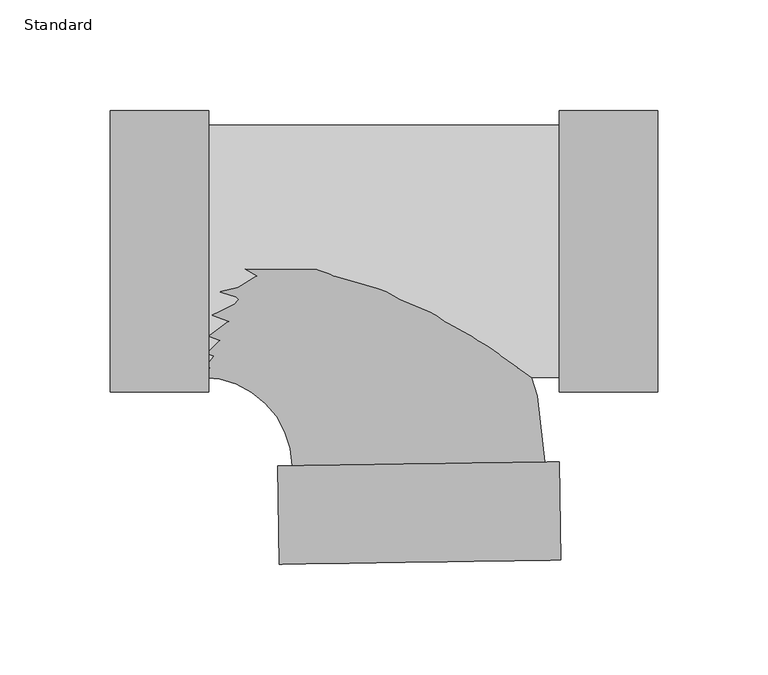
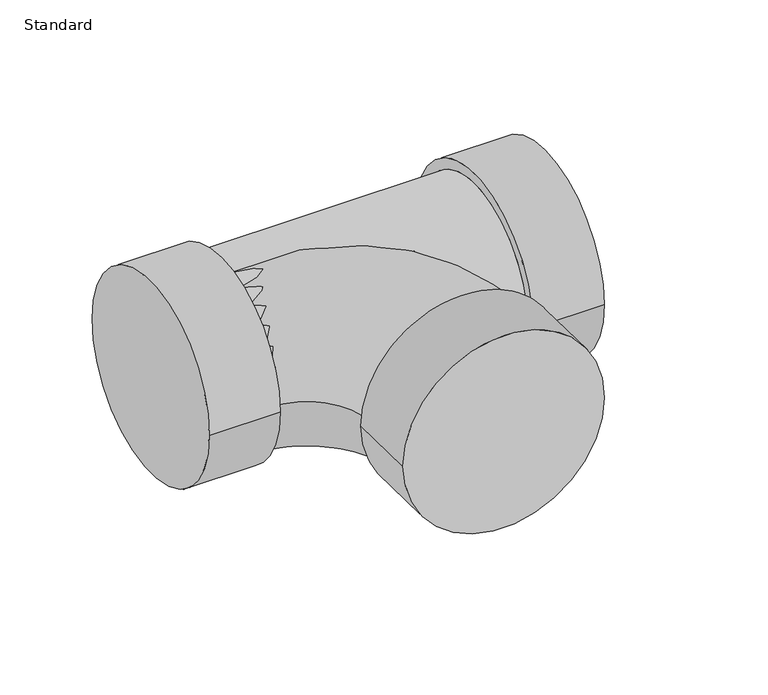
"""IFC4 building model written with IfcOpenShell, lengths in millimetres: pipe fitting geometry, EG-RCAN Té sanitaire de réduction - PVC - Nom. 40 - DWV : Standard."""

from ifc_helpers import new_model, si_unit, point, frame, origin, place, context, project, spatial, circle_curve, ellipse_curve, trimmed, source, transform, mapped, element, save
from ifc_brep_helpers import plane_surface, cylinder_surface, revolved_surface, advanced_brep


def standard_a2dd615c(model_context):
    return source(origin(), model_context, "Body", "AdvancedBrep", [
        advanced_brep(
        [(65.1918861, -63.754, 0.0), (65.1918861, 63.754, 0.0), (65.1918861, -57.15, 0.0), (65.1918861, 57.15, 0.0), (109.6418861, -63.754, 0.0), (109.6418861, 63.754, 0.0), (-93.4599062, 57.15, 0.0), (-93.4599062, -57.15, 0.0), (-137.9099062, -63.754, 0.0), (-137.9099062, 63.754, 0.0), (-93.4599062, -63.754, 0.0), (-93.4599062, 63.754, 0.0)],
        [
            (0, 1, circle_curve(frame((65.1918861, 0.0, 0.0), z_axis=(-1.0, 0.0, 0.0), x_axis=(0.0, 1.0, 0.0)), 63.754)),
            (1, 0, circle_curve(frame((65.1918861, 0.0, 0.0), z_axis=(-1.0, 0.0, 0.0), x_axis=(0.0, 1.0, 0.0)), 63.754)),
            (2, 3, circle_curve(frame((65.1918861, 0.0, 0.0), z_axis=(1.0, 0.0, 0.0), x_axis=(0.0, 0.0, -1.0)), 57.15)),
            (3, 2, circle_curve(frame((65.1918861, 0.0, 0.0), z_axis=(1.0, 0.0, 0.0), x_axis=(0.0, 0.0, 1.0)), 57.15)),
            (4, 5, circle_curve(frame((109.6418861, 0.0, 0.0), z_axis=(1.0, 0.0, 0.0), x_axis=(0.0, 1.0, 0.0)), 63.754)),
            (5, 4, circle_curve(frame((109.6418861, 0.0, 0.0), z_axis=(1.0, 0.0, 0.0), x_axis=(0.0, 1.0, 0.0)), 63.754)),
            (0, 4),
            (5, 1),
            (6, 3),
            (2, 7),
            (7, 6, circle_curve(frame((-93.4599062, 0.0, 0.0), z_axis=(1.0, 0.0, 0.0), x_axis=(0.0, 0.0, -1.0)), 57.15)),
            (6, 7, circle_curve(frame((-93.4599062, 0.0, 0.0), z_axis=(1.0, 0.0, 0.0), x_axis=(0.0, 0.0, 1.0)), 57.15)),
            (8, 9, circle_curve(frame((-137.9099062, 0.0, 0.0), z_axis=(-1.0, 0.0, 0.0), x_axis=(0.0, 1.0, 0.0)), 63.754)),
            (9, 8, circle_curve(frame((-137.9099062, 0.0, 0.0), z_axis=(-1.0, 0.0, 0.0), x_axis=(0.0, 1.0, 0.0)), 63.754)),
            (10, 11, circle_curve(frame((-93.4599062, 0.0, 0.0), z_axis=(1.0, 0.0, 0.0), x_axis=(0.0, 1.0, 0.0)), 63.754)),
            (11, 10, circle_curve(frame((-93.4599062, 0.0, 0.0), z_axis=(1.0, 0.0, 0.0), x_axis=(0.0, 1.0, 0.0)), 63.754)),
            (8, 10),
            (11, 9),
        ],
        [
            plane_surface(frame((65.1918861, 0.0, 0.0), z_axis=(-1.0, 0.0, 0.0), x_axis=(0.0, 0.0, 1.0))),
            plane_surface(frame((109.6418861, 0.0, 0.0), z_axis=(1.0, 0.0, 0.0), x_axis=(0.0, 0.0, 1.0))),
            cylinder_surface(frame((65.1918861, 0.0, 0.0), z_axis=(-1.0, 0.0, 0.0), x_axis=(0.0, 1.0, 0.0)), 63.754),
            cylinder_surface(frame((-93.4599062, 0.0, 0.0), z_axis=(1.0, 0.0, 0.0), x_axis=(0.0, 0.0, -1.0)), 57.15),
            cylinder_surface(frame((-93.4599062, 0.0, 0.0), z_axis=(1.0, 0.0, 0.0), x_axis=(0.0, 0.0, 1.0)), 57.15),
            plane_surface(frame((-137.9099062, 0.0, 0.0), z_axis=(-1.0, 0.0, 0.0), x_axis=(0.0, 0.0, 1.0))),
            plane_surface(frame((-93.4599062, 0.0, 0.0), z_axis=(1.0, 0.0, 0.0), x_axis=(0.0, 0.0, 1.0))),
            cylinder_surface(frame((-137.9099062, 0.0, 0.0), z_axis=(-1.0, 0.0, 0.0), x_axis=(0.0, 1.0, 0.0)), 63.754),
        ],
        [
            (0, [[1, 2], [3, 4]]),
            (1, [[5, 6]]),
            (2, [[-1, 7, -6, 8]]),
            (2, [[-2, -8, -5, -7]]),
            (3, [[9, -3, 10, 11]]),
            (4, [[-9, 12, -10, -4]]),
            (5, [[13, 14]]),
            (6, [[15, 16], [-11, -12]]),
            (7, [[-13, 17, -16, 18]]),
            (7, [[-14, -18, -15, -17]]),
        ],
    ),
        advanced_brep(
        [(-62.3017715, -97.2930246, 0.0), (65.1918861, -95.3806131, 0.0), (58.588629, -95.4796623, 0.0), (-55.6985144, -97.1939754, 0.0), (-61.6350942, -141.7380248, 0.0), (65.8585634, -139.8256133, 0.0), (-96.3476562, -57.15, 0.0), (-96.3476562, 57.15, 0.0)],
        [
            (0, 1, circle_curve(frame((1.4450573, -96.3368189, 0.0), z_axis=(-0.014998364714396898, 0.9998875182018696, 0.0), x_axis=(0.9998875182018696, 0.014998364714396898, 0.0)), 63.754)),
            (1, 0, circle_curve(frame((1.4450573, -96.3368189, 0.0), z_axis=(-0.014998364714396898, 0.9998875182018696, 0.0), x_axis=(0.9998875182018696, 0.014998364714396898, 0.0)), 63.754)),
            (2, 3, circle_curve(frame((1.4450573, -96.3368189, 0.0), z_axis=(0.014998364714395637, -0.9998875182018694, 0.0), x_axis=(0.9998875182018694, 0.014998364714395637, 0.0)), 57.15)),
            (3, 2, circle_curve(frame((1.4450573, -96.3368189, 0.0), z_axis=(0.014998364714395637, -0.9998875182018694, 0.0), x_axis=(0.9998875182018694, 0.014998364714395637, 0.0)), 57.15)),
            (4, 5, circle_curve(frame((2.1117346, -140.7818191, 0.0), z_axis=(0.014998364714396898, -0.9998875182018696, 0.0), x_axis=(0.9998875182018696, 0.014998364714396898, 0.0)), 63.754)),
            (5, 4, circle_curve(frame((2.1117346, -140.7818191, 0.0), z_axis=(0.014998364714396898, -0.9998875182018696, 0.0), x_axis=(0.9998875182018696, 0.014998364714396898, 0.0)), 63.754)),
            (0, 4),
            (5, 1),
            (6, 7, circle_curve(frame((-96.3476562, 0.0, 0.0), z_axis=(-0.9999999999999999, 0.0, 0.0), x_axis=(0.0, 0.9999999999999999, 0.0)), 57.15)),
            (7, 6, circle_curve(frame((-96.3476562, 0.0, 0.0), z_axis=(-0.9999999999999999, 0.0, 0.0), x_axis=(0.0, 0.9999999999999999, 0.0)), 57.15)),
            (6, 3, circle_curve(frame((-96.3476562, -97.8037147, 0.0), z_axis=(0.0, 0.0, -1.0), x_axis=(0.0, 0.9999999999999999, 0.0)), 40.6537147)),
            (2, 7, circle_curve(frame((-96.3476562, -97.8037147, 0.0), z_axis=(0.0, 0.0, 1.0), x_axis=(0.0, 0.9999999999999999, 0.0)), 154.9537147)),
        ],
        [
            plane_surface(frame((1.4450573, -96.3368189, 0.0), z_axis=(-0.014998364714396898, 0.9998875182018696, 0.0), x_axis=(0.0, 0.0, 1.0))),
            plane_surface(frame((2.1117346, -140.7818191, 0.0), z_axis=(0.014998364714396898, -0.9998875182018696, 0.0), x_axis=(0.0, 0.0, 1.0))),
            cylinder_surface(frame((1.4450573, -96.3368189, 0.0), z_axis=(-0.014998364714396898, 0.9998875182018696, 0.0), x_axis=(0.9998875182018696, 0.014998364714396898, 0.0)), 63.754),
            plane_surface(frame((-96.3476562, 0.0, 0.0), z_axis=(-1.0, 0.0, 0.0), x_axis=(0.0, 0.0, 1.0))),
            revolved_surface(trimmed(ellipse_curve(frame((-96.3476562, 0.0, 0.0), z_axis=(-0.9999999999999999, 0.0, 0.0), x_axis=(0.0, 0.9999999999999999, 0.0)), 57.15, 57.15), [point((-96.3476562, -57.15, 0.0))], [point((-96.3476562, 57.15, 0.0))], True, "CARTESIAN"), (-96.3476562, -97.8037147, 0.0), (0.0, 0.0, -1.0)),
            revolved_surface(trimmed(ellipse_curve(frame((-96.3476562, 0.0, 0.0), z_axis=(-0.9999999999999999, 0.0, 0.0), x_axis=(0.0, 0.9999999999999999, 0.0)), 57.15, 57.15), [point((-96.3476562, 57.15, 0.0))], [point((-96.3476562, -57.15, 0.0))], True, "CARTESIAN"), (-96.3476562, -97.8037147, 0.0), (0.0, 0.0, -1.0)),
        ],
        [
            (0, [[1, 2], [3, 4]]),
            (1, [[5, 6]]),
            (2, [[-1, 7, -6, 8]]),
            (2, [[-2, -8, -5, -7]]),
            (3, [[9, 10]]),
            (4, [[-9, 11, -3, 12]]),
            (5, [[-10, -12, -4, -11]]),
        ],
    ),
    ])


if __name__ == "__main__":
    model = new_model("IFC4")
    model_context = context("Model", 3, world=origin())
    ifc_project = project(units=[si_unit("LENGTHUNIT", "METRE", prefix="MILLI")], contexts=[model_context])
    site = spatial("IfcSite", under=ifc_project)
    building = spatial("IfcBuilding", under=site)
    placement = place(None, origin())
    standard_shape = standard_a2dd615c(model_context)
    element("IfcPipeFitting", 1, ObjectType="EG-RCAN Té sanitaire de réduction - PVC - Nom. 40 - DWV : Standard", at=placement, inside=building, context=model_context, shape_type="MappedRepresentation", body=[
        mapped(standard_shape, transform((0.0, 0.0, 0.0), x_axis=(1.0, 0.0, 0.0), y_axis=(0.0, 1.0, 0.0), z_axis=(0.0, 0.0, 1.0))),
    ])
    save(model, "model.ifc")
